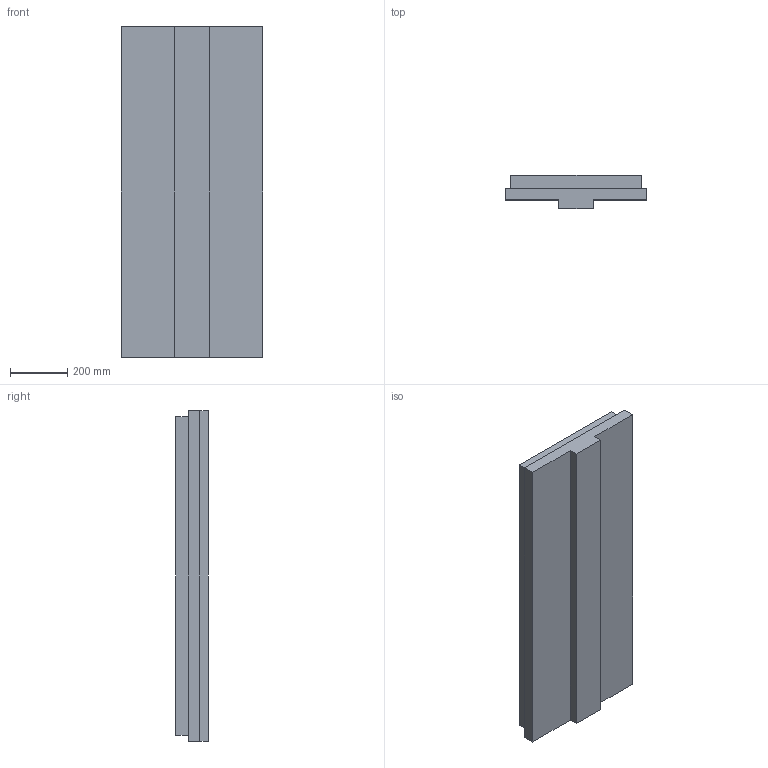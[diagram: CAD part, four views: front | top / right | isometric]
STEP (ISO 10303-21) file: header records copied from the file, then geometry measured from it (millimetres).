
FILE_DESCRIPTION (( 'STEP AP203' ), '1' );
FILE_NAME ('bas de Table.STEP', '2009-12-04T11:19:26', ( 'Famille Couzi' ), ( '' ), 'SwSTEP 2.0', 'SolidWorks 2005143', '' );
FILE_SCHEMA (( 'CONFIG_CONTROL_DESIGN' ));
Length unit declared in the file: millimetre
Products named in the file (1): bas de Table
Bounding box: 497 x 115 x 1158 mm (x, y, z)
Volume: 50181510 mm3; surface area: 1501882 mm2
Topology: 1 solids, 1 shells, 15 faces, 36 edges, 24 vertices
Faces by surface type: plane 15
Entity records: 507 total; most frequent: CARTESIAN_POINT 76, ORIENTED_EDGE 72, DIRECTION 68, EDGE_CURVE 36, VECTOR 36, LINE 36, VERTEX_POINT 24, EDGE_LOOP 16
